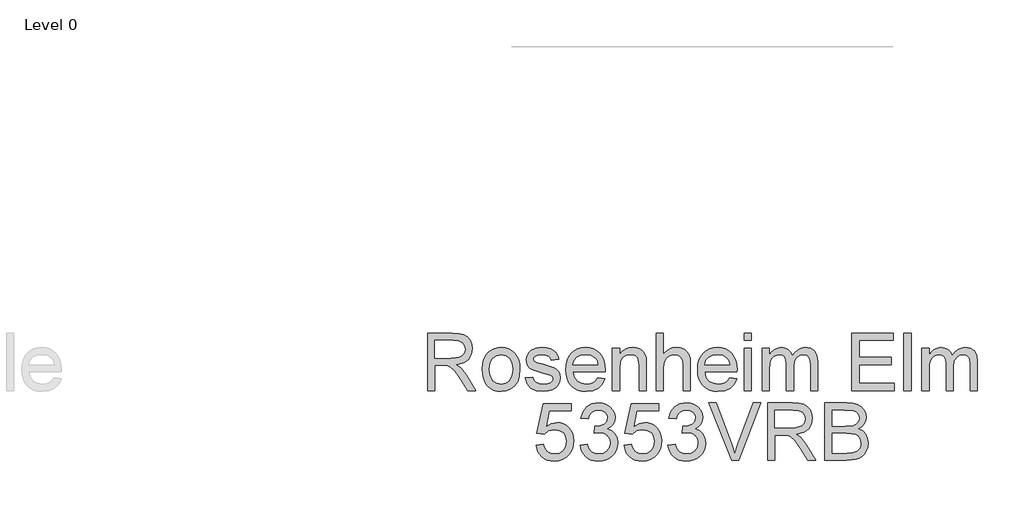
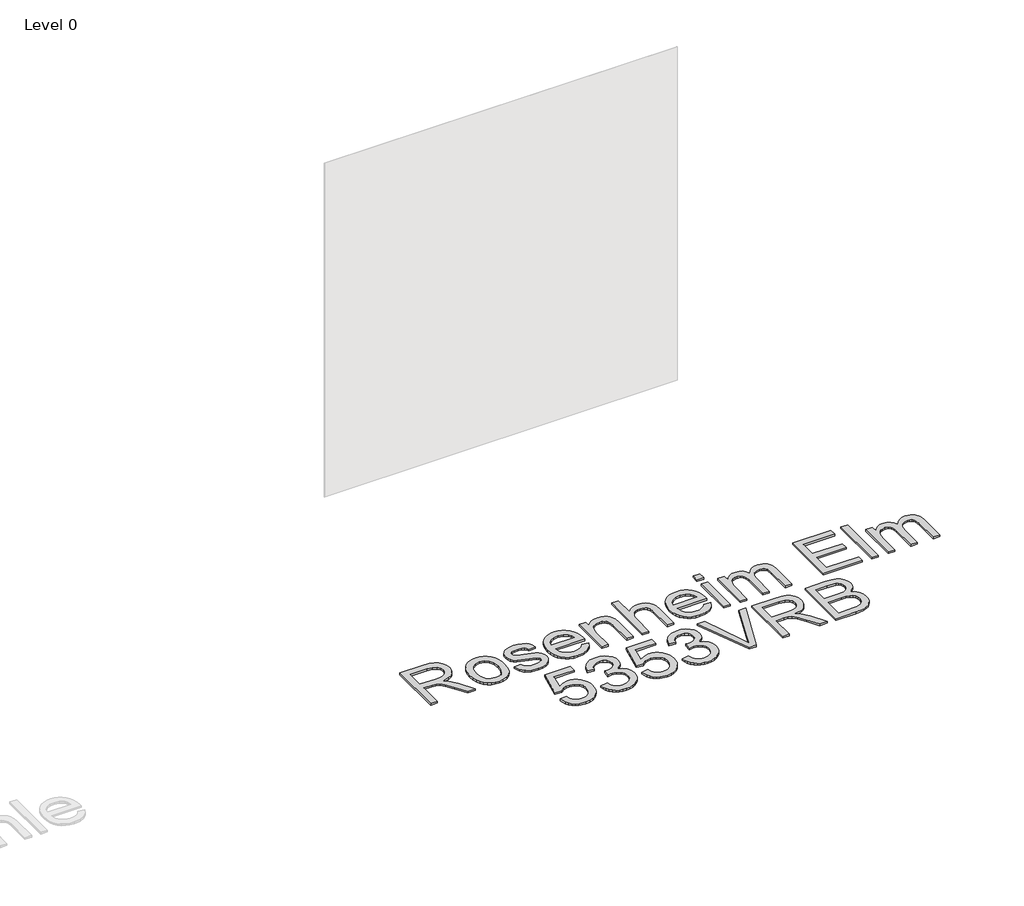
# One storey, part 3 of 43: 1 proxy.
"""IFC4 building model written with IfcOpenShell, lengths in millimetres."""

from ifc_helpers import new_model, si_unit, origin, origin_with_axes, place, context, project, spatial, polyline, outline, extrude, element, save

model = new_model("IFC4")

# Units and contexts
model_context = context("Model", 3, world=origin())
ifc_project = project(units=[si_unit("LENGTHUNIT", "METRE", prefix="MILLI")], contexts=[model_context])

# Site, building, storey
site = spatial("IfcSite", under=ifc_project)
building = spatial("IfcBuilding", under=site)
storey = spatial("IfcBuildingStorey", under=building, Name="Level 0", Elevation=0.0)

# Proxy
placement = place(None, origin())
element("IfcBuildingElementProxy", 1, Name="300mm Arial", ObjectType="300mm Arial", at=placement, inside=storey, context=model_context, shape_type="SweptSolid", body=[
    extrude(outline(polyline([(-5891.578255, -42030.0303751), (-5891.578255, -41728.6614447), (-5761.7159107, -41728.6614447), (-5726.8131064, -41730.6939927), (-5701.4200517, -41736.7916368), (-5682.8604051, -41748.0488258), (-5668.4578249, -41765.5600088), (-5659.2147898, -41787.2742436), (-5656.1337781, -41811.140588), (-5661.2381408, -41840.828665), (-5676.5512288, -41865.4399705), (-5688.151008, -41875.4693534), (-5702.5328947, -41883.4845823), (-5739.642991, -41893.4725785), (-5718.2322589, -41909.5858099), (-5687.6980533, -41948.3605722), (-5637.4453727, -42030.0303751), (-5681.2233302, -42030.0303751), (-5720.4395509, -41967.5640123), (-5748.7664645, -41926.2140761), (-5768.6688804, -41906.6795421), (-5786.5847336, -41899.5058432), (-5808.4369241, -41898.181468), (-5853.9071387, -41898.181468), (-5853.9071387, -42030.0303751), (-5891.578255, -42030.0303751)]), holes=[polyline([(-5853.9071387, -41860.5103517), (-5769.5885854, -41860.5103517), (-5745.3727531, -41859.1767795), (-5726.5831802, -41855.1760628), (-5712.4381175, -41848.2414872), (-5702.1558157, -41838.1063382), (-5695.8926247, -41825.8466707), (-5693.8048944, -41812.5385396), (-5697.787217, -41794.1628339), (-5709.7341848, -41779.3555836), (-5730.2895913, -41769.5883166), (-5760.0972299, -41766.332561), (-5853.9071387, -41766.332561), (-5853.9071387, -41860.5103517)])]), origin_with_axes(), (0.0, 0.0, 1.0), 10.0),
    extrude(outline(polyline([(-5604.3359932, -41919.371471), (-5602.2988466, -41890.708865), (-5596.187407, -41866.0101876), (-5586.0016742, -41845.2754386), (-5571.7416484, -41828.5046182), (-5557.3850535, -41817.7854565), (-5541.5385366, -41810.1289125), (-5524.2020976, -41805.5349861), (-5505.3757365, -41804.0036773), (-5484.592703, -41805.8683791), (-5465.8008308, -41811.4624847), (-5449.00012, -41820.7859941), (-5434.1905704, -41833.8389071), (-5422.1033476, -41850.1797655), (-5413.469617, -41869.3671108), (-5408.2893787, -41891.400943), (-5406.5626326, -41916.2812622), (-5409.6160531, -41954.3386546), (-5418.7763148, -41983.3093617), (-5433.7767032, -42005.0052024), (-5454.3505037, -42021.2379954), (-5478.7870653, -42031.3639474), (-5505.3757365, -42034.7392647), (-5526.4622726, -42032.8814606), (-5545.4288887, -42027.3080484), (-5562.2755848, -42018.019028), (-5577.0023609, -42005.0143994), (-5588.960825, -41988.514892), (-5597.5025851, -41968.7412347), (-5602.6276412, -41945.6934277), (-5604.3359932, -41919.371471)]), holes=[polyline([(-5566.6648769, -41919.2978946), (-5562.3054752, -41953.3913585), (-5549.2272703, -41977.6807672), (-5529.5455836, -41992.2213031), (-5505.3757365, -41997.0681484), (-5481.316254, -41992.1937119), (-5461.6713555, -41977.5704026), (-5448.5931505, -41952.9590971), (-5444.2337489, -41918.1206722), (-5448.6207417, -41885.0204897), (-5461.7817201, -41861.0621747), (-5481.4542097, -41846.5216389), (-5505.3757365, -41841.6747936), (-5529.5455836, -41846.5032448), (-5549.2272703, -41860.9885983), (-5562.3054752, -41885.2228248), (-5566.6648769, -41919.2978946)])]), origin_with_axes(), (0.0, 0.0, 1.0), 10.0),
    extrude(outline(polyline([(-5378.3092953, -41964.1059216), (-5340.638179, -41959.397032), (-5334.6968848, -41975.5102634), (-5323.2005725, -41987.3560637), (-5306.0756656, -41994.6401272), (-5283.2485878, -41997.0681484), (-5260.6974215, -41994.8424623), (-5244.8417075, -41988.1654041), (-5235.4607166, -41978.4901076), (-5232.3337197, -41967.2697067), (-5235.4791107, -41957.6679867), (-5244.9152839, -41950.347135), (-5283.6900462, -41939.6049807), (-5340.4174498, -41921.1740927), (-5354.7740447, -41911.9126635), (-5365.1759081, -41899.652996), (-5371.4942814, -41885.1768395), (-5373.6004058, -41869.2659432), (-5371.9081486, -41854.6702251), (-5366.8313771, -41841.196547), (-5358.8299437, -41829.3783379), (-5348.3637009, -41819.7490267), (-5324.4145831, -41808.6022022), (-5292.0041793, -41804.0036773), (-5267.4848443, -41805.8522843), (-5246.1660827, -41811.3981054), (-5229.0227817, -41820.0985146), (-5217.0298287, -41831.4108859), (-5209.0835776, -41846.172151), (-5204.0803824, -41865.2192413), (-5241.7514987, -41869.9281308), (-5246.5063735, -41858.0731335), (-5255.9149555, -41849.1427981), (-5270.0692153, -41843.5417947), (-5289.0611233, -41841.6747936), (-5310.6925846, -41843.4590213), (-5325.1135588, -41848.8117043), (-5333.2253568, -41856.5372262), (-5335.9292895, -41865.4399705), (-5331.4411292, -41876.4028539), (-5317.3880369, -41884.716987), (-5284.940845, -41892.7368145), (-5229.6481811, -41910.4687267), (-5215.0432659, -41918.9484067), (-5203.9700178, -41930.5550836), (-5196.989457, -41945.3255457), (-5194.6626034, -41963.2965812), (-5197.3941272, -41981.874622), (-5205.5886986, -41999.3490167), (-5218.933618, -42014.3494051), (-5237.1161856, -42025.5054266), (-5259.0787407, -42032.4308051), (-5283.7636226, -42034.7392647), (-5321.7474386, -42030.2878925), (-5349.4673469, -42016.9337761), (-5367.9718113, -41994.8240682), (-5378.3092953, -41964.1059216)])), origin_with_axes(), (0.0, 0.0, 1.0), 10.0),
    extrude(outline(polyline([(-4997.3307011, -41964.1059216), (-4960.3953488, -41968.8148111), (-4973.70348, -41996.6450841), (-4994.9394682, -42017.4488109), (-5023.6250667, -42030.4166512), (-5059.2820291, -42034.7392647), (-5082.6563314, -42032.8745628), (-5103.4830508, -42027.2804572), (-5121.7621875, -42017.9569479), (-5137.4937413, -42004.9040349), (-5150.1442834, -41988.4850016), (-5159.1803849, -41969.0631315), (-5164.6020458, -41946.6384246), (-5166.4092661, -41921.2108809), (-5164.5836517, -41894.9211139), (-5159.1068085, -41871.7491467), (-5149.9787365, -41851.6949794), (-5137.1994357, -41834.7586121), (-5121.5092686, -41821.3033281), (-5103.6485977, -41811.692411), (-5083.6174231, -41805.9258607), (-5061.4157447, -41804.0036773), (-5039.9291369, -41805.9212622), (-5020.4980698, -41811.6740169), (-5003.1225433, -41821.2619414), (-4987.8025575, -41834.6850357), (-4975.2968689, -41851.5846148), (-4966.3642342, -41871.6019939), (-4961.0046534, -41894.7371729), (-4959.2181264, -41920.9901518), (-4959.4388556, -41931.1436948), (-5128.7381498, -41931.1436948), (-5122.2174415, -41959.3418497), (-5107.0699003, -41980.0720002), (-5085.2085127, -41992.8191113), (-5058.5462651, -41997.0681484), (-5038.4966964, -41995.0999797), (-5021.6109128, -41989.1954737), (-5007.8889144, -41978.9867483), (-4997.3307011, -41964.1059216)]), holes=[polyline([(-5128.7381498, -41893.4725785), (-4996.8892427, -41893.4725785), (-5001.9844084, -41873.5701626), (-5011.9724045, -41859.3331294), (-5033.9349597, -41846.0893775), (-5061.5628975, -41841.6747936), (-5086.9559522, -41845.1972637), (-5107.9528171, -41855.764674), (-5122.5485352, -41872.2365903), (-5128.7381498, -41893.4725785)])]), origin_with_axes(), (0.0, 0.0, 1.0), 10.0),
    extrude(outline(polyline([(-4921.5470101, -42030.0303751), (-4921.5470101, -41808.7125668), (-4883.8758938, -41808.7125668), (-4883.8758938, -41839.6146544), (-4870.7884918, -41824.0348519), (-4855.0707336, -41812.9064216), (-4836.7226191, -41806.2293634), (-4815.7441483, -41804.0036773), (-4797.1753046, -41805.797102), (-4780.1699594, -41811.1773762), (-4765.9881085, -41819.4731152), (-4755.8897477, -41830.0129343), (-4744.5957705, -41857.7144486), (-4742.6092077, -41894.1347661), (-4742.6092077, -42030.0303751), (-4780.280324, -42030.0303751), (-4780.280324, -41899.2115376), (-4784.6213315, -41865.8814289), (-4790.6270051, -41855.9578121), (-4799.9620107, -41848.2598813), (-4811.9273726, -41843.3210655), (-4825.824115, -41841.6747936), (-4847.8878376, -41845.3720076), (-4866.6958047, -41856.4636498), (-4874.2120937, -41865.5181454), (-4879.5808715, -41877.892776), (-4883.8758938, -41912.6024423), (-4883.8758938, -42030.0303751), (-4921.5470101, -42030.0303751)])), origin_with_axes(), (0.0, 0.0, 1.0), 10.0),
    extrude(outline(polyline([(-4690.8114228, -42030.0303751), (-4690.8114228, -41728.6614447), (-4653.1403065, -41728.6614447), (-4653.1403065, -41839.4675016), (-4639.3033449, -41823.9520785), (-4623.7649291, -41812.8696334), (-4606.5250591, -41806.2201663), (-4587.5837349, -41804.0036773), (-4564.8302335, -41806.4225014), (-4545.2773055, -41813.6789738), (-4529.881444, -41825.2028773), (-4519.5991422, -41840.4239948), (-4513.8050008, -41861.3380862), (-4511.8736203, -41889.9409114), (-4511.8736203, -42030.0303751), (-4549.5447366, -42030.0303751), (-4549.5447366, -41893.8404605), (-4552.5429749, -41870.2592246), (-4561.5376897, -41854.109205), (-4576.0322403, -41844.7833964), (-4595.529986, -41841.6747936), (-4611.4500793, -41843.771721), (-4626.3952854, -41850.0625031), (-4638.7745145, -41859.9401347), (-4646.9966771, -41872.7976104), (-4651.6043991, -41889.8857291), (-4653.1403065, -41912.4552895), (-4653.1403065, -42030.0303751), (-4690.8114228, -42030.0303751)])), origin_with_axes(), (0.0, 0.0, 1.0), 10.0),
    extrude(outline(polyline([(-4305.123939, -41964.1059216), (-4268.1885867, -41968.8148111), (-4281.4967179, -41996.6450841), (-4302.732706, -42017.4488109), (-4331.4183046, -42030.4166512), (-4367.075267, -42034.7392647), (-4390.4495693, -42032.8745628), (-4411.2762887, -42027.2804572), (-4429.5554254, -42017.9569479), (-4445.2869792, -42004.9040349), (-4457.9375213, -41988.4850016), (-4466.9736228, -41969.0631315), (-4472.3952837, -41946.6384246), (-4474.202504, -41921.2108809), (-4472.3768896, -41894.9211139), (-4466.9000464, -41871.7491467), (-4457.7719744, -41851.6949794), (-4444.9926736, -41834.7586121), (-4429.3025065, -41821.3033281), (-4411.4418356, -41811.692411), (-4391.410661, -41805.9258607), (-4369.2089826, -41804.0036773), (-4347.7223748, -41805.9212622), (-4328.2913077, -41811.6740169), (-4310.9157812, -41821.2619414), (-4295.5957953, -41834.6850357), (-4283.0901068, -41851.5846148), (-4274.1574721, -41871.6019939), (-4268.7978913, -41894.7371729), (-4267.0113643, -41920.9901518), (-4267.2320935, -41931.1436948), (-4436.5313877, -41931.1436948), (-4430.0106793, -41959.3418497), (-4414.8631382, -41980.0720002), (-4393.0017506, -41992.8191113), (-4366.339503, -41997.0681484), (-4346.2899343, -41995.0999797), (-4329.4041507, -41989.1954737), (-4315.6821523, -41978.9867483), (-4305.123939, -41964.1059216)]), holes=[polyline([(-4436.5313877, -41893.4725785), (-4304.6824806, -41893.4725785), (-4309.7776463, -41873.5701626), (-4319.7656424, -41859.3331294), (-4341.7281975, -41846.0893775), (-4369.3561354, -41841.6747936), (-4394.7491901, -41845.1972637), (-4415.746055, -41855.764674), (-4430.3417731, -41872.2365903), (-4436.5313877, -41893.4725785)])]), origin_with_axes(), (0.0, 0.0, 1.0), 10.0),
    extrude(outline(polyline([(-4229.340248, -41766.332561), (-4229.340248, -41728.6614447), (-4191.6691317, -41728.6614447), (-4191.6691317, -41766.332561), (-4229.340248, -41766.332561)])), origin_with_axes(), (0.0, 0.0, 1.0), 10.0),
    extrude(outline(polyline([(-4229.340248, -42030.0303751), (-4229.340248, -41808.7125668), (-4191.6691317, -41808.7125668), (-4191.6691317, -42030.0303751), (-4229.340248, -42030.0303751)])), origin_with_axes(), (0.0, 0.0, 1.0), 10.0),
    extrude(outline(polyline([(-4135.1624572, -42030.0303751), (-4135.1624572, -41808.7125668), (-4097.4913409, -41808.7125668), (-4097.4913409, -41845.1328843), (-4086.1605755, -41828.4034506), (-4071.5924485, -41815.2976545), (-4054.2836006, -41806.8271716), (-4034.7306726, -41804.0036773), (-4013.7797929, -41806.8823539), (-3996.9859799, -41815.5183837), (-3984.4412038, -41829.3415497), (-3976.2374353, -41847.7816347), (-3962.5062399, -41828.6287783), (-3946.8436639, -41814.9481666), (-3929.2497075, -41806.7397996), (-3909.7243706, -41804.0036773), (-3881.406654, -41808.556217), (-3860.4649714, -41822.213836), (-3847.5247223, -41845.3444165), (-3843.2113059, -41878.3158403), (-3843.2113059, -42030.0303751), (-3880.8824222, -42030.0303751), (-3880.8824222, -41894.5026481), (-3884.3773011, -41863.0487375), (-3889.2885258, -41854.3759195), (-3897.0324418, -41847.5609055), (-3906.9928468, -41843.1463216), (-3918.5535385, -41841.6747936), (-3938.9617922, -41845.445584), (-3955.5992554, -41856.7579554), (-3966.6633064, -41876.3844598), (-3970.3513234, -41905.0976496), (-3970.3513234, -42030.0303751), (-4008.0224397, -42030.0303751), (-4008.0224397, -41890.3087934), (-4010.2021405, -41869.0084258), (-4016.741243, -41853.8148994), (-4028.2467524, -41844.7098201), (-4045.325674, -41841.6747936), (-4059.8386187, -41843.6981446), (-4073.2111293, -41849.7681975), (-4084.2475891, -41859.7377996), (-4091.7523818, -41873.459798), (-4096.0566012, -41892.4976912), (-4097.4913409, -41918.4149778), (-4097.4913409, -42030.0303751), (-4135.1624572, -42030.0303751)])), origin_with_axes(), (0.0, 0.0, 1.0), 10.0),
    extrude(outline(polyline([(-3664.2735034, -42030.0303751), (-3664.2735034, -41728.6614447), (-3447.6645847, -41728.6614447), (-3447.6645847, -41766.332561), (-3626.6023871, -41766.332561), (-3626.6023871, -41855.8014622), (-3457.0823637, -41855.8014622), (-3457.0823637, -41893.4725785), (-3626.6023871, -41893.4725785), (-3626.6023871, -41992.3592588), (-3442.9556951, -41992.3592588), (-3442.9556951, -42030.0303751), (-3664.2735034, -42030.0303751)])), origin_with_axes(), (0.0, 0.0, 1.0), 10.0),
    extrude(outline(polyline([(-3391.1579102, -42030.0303751), (-3391.1579102, -41728.6614447), (-3353.4867939, -41728.6614447), (-3353.4867939, -42030.0303751), (-3391.1579102, -42030.0303751)])), origin_with_axes(), (0.0, 0.0, 1.0), 10.0),
    extrude(outline(polyline([(-3296.9801194, -42030.0303751), (-3296.9801194, -41808.7125668), (-3259.3090031, -41808.7125668), (-3259.3090031, -41845.1328843), (-3247.9782377, -41828.4034506), (-3233.4101107, -41815.2976545), (-3216.1012628, -41806.8271716), (-3196.5483347, -41804.0036773), (-3175.5974551, -41806.8823539), (-3158.803642, -41815.5183837), (-3146.258866, -41829.3415497), (-3138.0550975, -41847.7816347), (-3124.323902, -41828.6287783), (-3108.6613261, -41814.9481666), (-3091.0673697, -41806.7397996), (-3071.5420328, -41804.0036773), (-3043.2243162, -41808.556217), (-3022.2826336, -41822.213836), (-3009.3423845, -41845.3444165), (-3005.0289681, -41878.3158403), (-3005.0289681, -42030.0303751), (-3042.7000844, -42030.0303751), (-3042.7000844, -41894.5026481), (-3046.1949633, -41863.0487375), (-3051.106188, -41854.3759195), (-3058.850104, -41847.5609055), (-3068.810509, -41843.1463216), (-3080.3712007, -41841.6747936), (-3100.7794544, -41845.445584), (-3117.4169176, -41856.7579554), (-3128.4809686, -41876.3844598), (-3132.1689856, -41905.0976496), (-3132.1689856, -42030.0303751), (-3169.8401019, -42030.0303751), (-3169.8401019, -41890.3087934), (-3172.0198027, -41869.0084258), (-3178.5589052, -41853.8148994), (-3190.0644146, -41844.7098201), (-3207.1433362, -41841.6747936), (-3221.6562809, -41843.6981446), (-3235.0287914, -41849.7681975), (-3246.0652513, -41859.7377996), (-3253.570044, -41873.459798), (-3257.8742633, -41892.4976912), (-3259.3090031, -41918.4149778), (-3259.3090031, -42030.0303751), (-3296.9801194, -42030.0303751)])), origin_with_axes(), (0.0, 0.0, 1.0), 10.0),
    extrude(outline(polyline([(-5321.8026209, -42315.9037065), (-5284.1315046, -42311.194817), (-5277.2153231, -42333.8103626), (-5265.1487936, -42350.0063675), (-5247.9870986, -42359.7460433), (-5225.7854201, -42362.9926019), (-5198.7828817, -42358.4768504), (-5178.549372, -42344.9295959), (-5165.9126254, -42323.914337), (-5161.7003766, -42296.994572), (-5165.645911, -42271.6475025), (-5177.4825142, -42252.2601213), (-5197.3021567, -42239.9544686), (-5225.196809, -42235.8525844), (-5243.4713471, -42237.4896592), (-5258.2694003, -42242.4008839), (-5279.422615, -42259.397032), (-5317.0937313, -42254.6881425), (-5284.1315046, -42099.2947877), (-5138.1559289, -42099.2947877), (-5138.1559289, -42136.9659041), (-5253.6708754, -42136.9659041), (-5269.7841068, -42219.9600822), (-5242.8735388, -42203.6261216), (-5214.6753839, -42198.181468), (-5196.3295686, -42199.8691267), (-5179.478274, -42204.9321027), (-5164.1215, -42213.3703959), (-5150.2592465, -42225.1840065), (-5138.7836275, -42239.650966), (-5130.5867568, -42256.0493059), (-5125.6686344, -42274.3790263), (-5124.0292603, -42294.6401272), (-5129.9337663, -42332.3112435), (-5137.3143988, -42349.1050566), (-5147.6472844, -42364.5377063), (-5163.3006633, -42380.3428365), (-5181.5660043, -42391.6322152), (-5202.4433076, -42398.4058424), (-5225.9325729, -42400.6637182), (-5262.9323046, -42394.8603797), (-5278.6109754, -42387.6062066), (-5292.4088495, -42377.4503643), (-5303.889067, -42364.8986905), (-5312.6147681, -42350.4570229), (-5321.8026209, -42315.9037065)])), origin_with_axes(), (0.0, 0.0, 1.0), 10.0),
    extrude(outline(polyline([(-5091.0670335, -42315.9037065), (-5053.3959172, -42311.194817), (-5044.9622225, -42334.8680234), (-5032.6105845, -42350.852496), (-5015.7339979, -42359.9575754), (-4993.7254576, -42362.9926019), (-4967.9001415, -42358.8171412), (-4947.9609374, -42346.2907593), (-4935.2138263, -42327.602354), (-4930.9647892, -42304.940823), (-4935.1770381, -42283.4289234), (-4947.8137846, -42265.9821198), (-4966.9436483, -42254.4214281), (-4990.6352488, -42250.5678642), (-5017.0491761, -42254.6881425), (-5012.8553213, -42217.0170262), (-5006.8220566, -42217.4584846), (-4984.2524962, -42214.7545519), (-4964.0741688, -42206.6427539), (-4949.8371356, -42192.9207555), (-4945.0914578, -42173.3862216), (-4948.5311545, -42157.1166403), (-4958.8502444, -42143.9188738), (-4974.5955938, -42135.1724793), (-4994.3140688, -42132.2570145), (-5014.0693319, -42135.2000705), (-5030.2193515, -42144.0292384), (-5042.0099695, -42158.7445182), (-5048.6870277, -42179.3459099), (-5086.358144, -42174.6370204), (-5075.2665018, -42140.8102709), (-5055.5296328, -42115.5551719), (-5028.5270943, -42099.8282166), (-4995.638444, -42094.5858982), (-4971.9560405, -42097.1702692), (-4950.2050176, -42104.9233823), (-4931.8661001, -42117.1554586), (-4918.4200132, -42133.1767195), (-4910.1702594, -42151.6351986), (-4907.4203415, -42171.1789296), (-4910.0323037, -42189.3890884), (-4917.8681902, -42205.9069899), (-4930.8176364, -42219.9784763), (-4948.7702778, -42230.8493892), (-4925.1890419, -42240.3775329), (-4907.7146471, -42256.6011289), (-4896.8989165, -42278.6372604), (-4893.2936729, -42305.6030106), (-4895.0962947, -42324.7144803), (-4900.50416, -42342.3176338), (-4909.5172689, -42358.412471), (-4922.1356213, -42372.9989922), (-4937.5084902, -42385.1023098), (-4954.7851484, -42393.7475367), (-4973.9655959, -42398.9346728), (-4995.0498328, -42400.6637182), (-5014.1061201, -42399.1875917), (-5031.4701503, -42394.7592122), (-5047.1419233, -42387.3785796), (-5061.1214391, -42377.0456941), (-5072.8430792, -42364.3675608), (-5081.7412249, -42349.9511852), (-5087.8158764, -42333.796567), (-5091.0670335, -42315.9037065)])), origin_with_axes(), (0.0, 0.0, 1.0), 10.0),
    extrude(outline(polyline([(-4860.3314461, -42315.9037065), (-4822.6603298, -42311.194817), (-4815.7441483, -42333.8103626), (-4803.6776189, -42350.0063675), (-4786.5159238, -42359.7460433), (-4764.3142454, -42362.9926019), (-4737.3117069, -42358.4768504), (-4717.0781972, -42344.9295959), (-4704.4414507, -42323.914337), (-4700.2292018, -42296.994572), (-4704.1747362, -42271.6475025), (-4716.0113394, -42252.2601213), (-4735.8309819, -42239.9544686), (-4763.7256342, -42235.8525844), (-4782.0001723, -42237.4896592), (-4796.7982256, -42242.4008839), (-4817.9514403, -42259.397032), (-4855.6225566, -42254.6881425), (-4822.6603298, -42099.2947877), (-4676.6847541, -42099.2947877), (-4676.6847541, -42136.9659041), (-4792.1997006, -42136.9659041), (-4808.312932, -42219.9600822), (-4781.4023641, -42203.6261216), (-4753.2042091, -42198.181468), (-4734.8583939, -42199.8691267), (-4718.0070993, -42204.9321027), (-4702.6503252, -42213.3703959), (-4688.7880718, -42225.1840065), (-4677.3124528, -42239.650966), (-4669.1155821, -42256.0493059), (-4664.1974597, -42274.3790263), (-4662.5580855, -42294.6401272), (-4668.4625916, -42332.3112435), (-4675.8432241, -42349.1050566), (-4686.1761096, -42364.5377063), (-4701.8294885, -42380.3428365), (-4720.0948296, -42391.6322152), (-4740.9721328, -42398.4058424), (-4764.4613982, -42400.6637182), (-4801.4611299, -42394.8603797), (-4817.1398006, -42387.6062066), (-4830.9376747, -42377.4503643), (-4842.4178922, -42364.8986905), (-4851.1435933, -42350.4570229), (-4860.3314461, -42315.9037065)])), origin_with_axes(), (0.0, 0.0, 1.0), 10.0),
    extrude(outline(polyline([(-4629.5958588, -42315.9037065), (-4591.9247425, -42311.194817), (-4583.4910477, -42334.8680234), (-4571.1394097, -42350.852496), (-4554.2628232, -42359.9575754), (-4532.2542828, -42362.9926019), (-4506.4289668, -42358.8171412), (-4486.4897626, -42346.2907593), (-4473.7426515, -42327.602354), (-4469.4936145, -42304.940823), (-4473.7058633, -42283.4289234), (-4486.3426098, -42265.9821198), (-4505.4724736, -42254.4214281), (-4529.1640741, -42250.5678642), (-4555.5780013, -42254.6881425), (-4551.3841466, -42217.0170262), (-4545.3508819, -42217.4584846), (-4522.7813215, -42214.7545519), (-4502.602994, -42206.6427539), (-4488.3659608, -42192.9207555), (-4483.6202831, -42173.3862216), (-4487.0599797, -42157.1166403), (-4497.3790697, -42143.9188738), (-4513.1244191, -42135.1724793), (-4532.842894, -42132.2570145), (-4552.5981572, -42135.2000705), (-4568.7481768, -42144.0292384), (-4580.5387947, -42158.7445182), (-4587.2158529, -42179.3459099), (-4624.8869692, -42174.6370204), (-4613.7953271, -42140.8102709), (-4594.058458, -42115.5551719), (-4567.0559196, -42099.8282166), (-4534.1672692, -42094.5858982), (-4510.4848658, -42097.1702692), (-4488.7338428, -42104.9233823), (-4470.3949253, -42117.1554586), (-4456.9488384, -42133.1767195), (-4448.6990847, -42151.6351986), (-4445.9491668, -42171.1789296), (-4448.5611289, -42189.3890884), (-4456.3970154, -42205.9069899), (-4469.3464617, -42219.9784763), (-4487.299103, -42230.8493892), (-4463.7178671, -42240.3775329), (-4446.2434724, -42256.6011289), (-4435.4277417, -42278.6372604), (-4431.8224982, -42305.6030106), (-4433.6251199, -42324.7144803), (-4439.0329853, -42342.3176338), (-4448.0460941, -42358.412471), (-4460.6644466, -42372.9989922), (-4476.0373154, -42385.1023098), (-4493.3139736, -42393.7475367), (-4512.4944212, -42398.9346728), (-4533.578658, -42400.6637182), (-4552.6349454, -42399.1875917), (-4569.9989755, -42394.7592122), (-4585.6707485, -42387.3785796), (-4599.6502644, -42377.0456941), (-4611.3719044, -42364.3675608), (-4620.2700502, -42349.9511852), (-4626.3447016, -42333.796567), (-4629.5958588, -42315.9037065)])), origin_with_axes(), (0.0, 0.0, 1.0), 10.0),
    extrude(outline(polyline([(-4295.7061599, -42395.9548287), (-4415.6356904, -42094.5858982), (-4375.3158237, -42094.5858982), (-4295.0439723, -42311.7098518), (-4278.7835882, -42360.6381571), (-4262.7439332, -42311.7098518), (-4182.2513526, -42094.5858982), (-4141.931486, -42094.5858982), (-4256.7842448, -42395.9548287), (-4295.7061599, -42395.9548287)])), origin_with_axes(), (0.0, 0.0, 1.0), 10.0),
    extrude(outline(polyline([(-4106.90912, -42395.9548287), (-4106.90912, -42094.5858982), (-3977.0467757, -42094.5858982), (-3942.1439714, -42096.6184462), (-3916.7509167, -42102.7160903), (-3898.1912701, -42113.9732794), (-3883.7886899, -42131.4844623), (-3874.5456548, -42153.1986971), (-3871.4646431, -42177.0650415), (-3876.5690058, -42206.7531185), (-3891.8820938, -42231.364424), (-3903.481873, -42241.3938069), (-3917.8637597, -42249.4090359), (-3954.973856, -42259.397032), (-3933.5631239, -42275.5102634), (-3903.0289183, -42314.2850257), (-3852.7762377, -42395.9548287), (-3896.5541952, -42395.9548287), (-3935.7704159, -42333.4884659), (-3964.0973295, -42292.1385296), (-3983.9997454, -42272.6039957), (-4001.9155986, -42265.4302968), (-4023.7677891, -42264.1059216), (-4069.2380037, -42264.1059216), (-4069.2380037, -42395.9548287), (-4106.90912, -42395.9548287)]), holes=[polyline([(-4069.2380037, -42226.4348053), (-3984.9194504, -42226.4348053), (-3960.7036181, -42225.101233), (-3941.9140452, -42221.1005163), (-3927.7689825, -42214.1659407), (-3917.4866807, -42204.0307918), (-3911.2234897, -42191.7711243), (-3909.1357594, -42178.4629931), (-3913.118082, -42160.0872874), (-3925.0650498, -42145.2800371), (-3945.6204563, -42135.5127702), (-3975.4280949, -42132.2570145), (-4069.2380037, -42132.2570145), (-4069.2380037, -42226.4348053)])]), origin_with_axes(), (0.0, 0.0, 1.0), 10.0),
    extrude(outline(polyline([(-3805.5401896, -42395.9548287), (-3805.5401896, -42094.5858982), (-3690.5402779, -42094.5858982), (-3658.9116233, -42096.8023872), (-3634.2175444, -42103.4518543), (-3615.2900158, -42114.6998463), (-3600.961012, -42130.7119101), (-3591.9387061, -42149.5474683), (-3588.9312708, -42169.2659432), (-3591.4604595, -42187.4117226), (-3599.0480257, -42204.4722502), (-3611.7491516, -42219.3990621), (-3629.6190195, -42231.1436948), (-3608.2726667, -42242.2905193), (-3592.4997262, -42259.2498792), (-3582.7600503, -42280.8997347), (-3579.5134917, -42306.1180454), (-3581.7299807, -42327.1333044), (-3588.3794478, -42346.6218531), (-3598.3030646, -42363.194937), (-3610.3420029, -42375.4638015), (-3625.0848739, -42384.3481517), (-3643.1202887, -42390.7676925), (-3691.4231947, -42395.9548287), (-3805.5401896, -42395.9548287)]), holes=[polyline([(-3767.8690733, -42217.0170262), (-3699.0751402, -42217.0170262), (-3658.9024263, -42213.7796646), (-3644.840137, -42208.1970554), (-3634.7325792, -42199.836937), (-3628.6349351, -42188.8280683), (-3626.6023871, -42175.2992079), (-3628.4969794, -42162.1658207), (-3634.1807562, -42150.7246907), (-3643.3962002, -42141.7943552), (-3655.8857939, -42136.1933519), (-3704.2990645, -42132.2570145), (-3767.8690733, -42132.2570145), (-3767.8690733, -42217.0170262)]), polyline([(-3767.8690733, -42358.2837124), (-3690.6138543, -42358.2837124), (-3662.6548226, -42356.8121844), (-3639.0000103, -42348.6084159), (-3623.3282374, -42331.8697851), (-3618.7205154, -42320.042379), (-3617.184608, -42306.4859274), (-3618.9872298, -42290.740578), (-3624.3950951, -42277.2025206), (-3633.8404654, -42266.6167162), (-3647.7556018, -42259.7281258), (-3667.4648797, -42255.9481383), (-3694.2926742, -42254.6881425), (-3767.8690733, -42254.6881425), (-3767.8690733, -42358.2837124)])]), origin_with_axes(), (0.0, 0.0, 1.0), 10.0),
])

save(model, "model.ifc")
